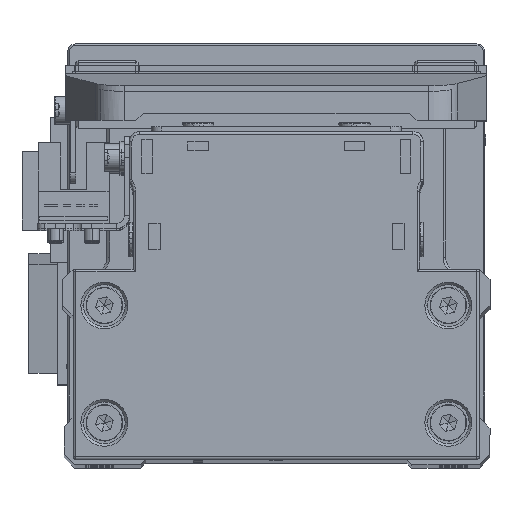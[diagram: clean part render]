
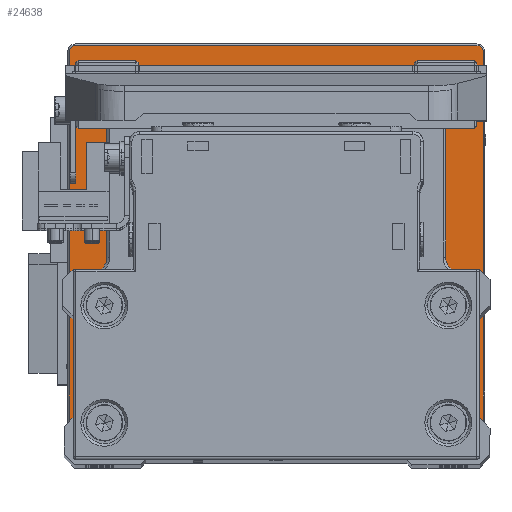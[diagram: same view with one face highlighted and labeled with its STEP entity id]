
A CAD part, top view. The second image highlights one B-rep face of the part: STEP entity #24638.
In plain terms, the highlighted planar face has unit normal (0, 0, 1) as drawn and (0, 1, 0) by its records, which use the part's own axes.
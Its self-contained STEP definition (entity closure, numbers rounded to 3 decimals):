
#351 = DIRECTION ( 'NONE',  ( -1., 0., 0. ) ) ;
#1517 = VECTOR ( 'NONE', #11342, 1000. ) ;
#4155 = CARTESIAN_POINT ( 'NONE',  ( -39.7, 12., 0. ) ) ;
#4467 = ORIENTED_EDGE ( 'NONE', *, *, #28665, .T. ) ;
#5305 = VERTEX_POINT ( 'NONE', #5956 ) ;
#5354 = DIRECTION ( 'NONE',  ( 0., 1., 0. ) ) ;
#5429 = AXIS2_PLACEMENT_3D ( 'NONE', #35245, #8109, #20193 ) ;
#5698 = DIRECTION ( 'NONE',  ( 0., 1., 0. ) ) ;
#5956 = CARTESIAN_POINT ( 'NONE',  ( 0., 12., 20.5 ) ) ;
#7906 = CIRCLE ( 'NONE', #30060, 1.2 ) ;
#7922 = CARTESIAN_POINT ( 'NONE',  ( -39.7, 12., -38.5 ) ) ;
#8109 = DIRECTION ( 'NONE',  ( 0., -1., 0. ) ) ;
#8766 = CARTESIAN_POINT ( 'NONE',  ( 38.5, 12., 38.5 ) ) ;
#9414 = AXIS2_PLACEMENT_3D ( 'NONE', #10375, #22465, #34539 ) ;
#9480 = CARTESIAN_POINT ( 'NONE',  ( -38.5, 12., -39.7 ) ) ;
#10148 = DIRECTION ( 'NONE',  ( 1., 0., 0. ) ) ;
#10375 = CARTESIAN_POINT ( 'NONE',  ( 0., 12., 0. ) ) ;
#10731 = DIRECTION ( 'NONE',  ( 0., 0., 1. ) ) ;
#10804 = DIRECTION ( 'NONE',  ( 0., 1., 0. ) ) ;
#11083 = FACE_BOUND ( 'NONE', #21159, .T. ) ;
#11167 = EDGE_CURVE ( 'NONE', #22157, #11972, #33583, .T. ) ;
#11342 = DIRECTION ( 'NONE',  ( 0., 0., -1. ) ) ;
#11548 = ORIENTED_EDGE ( 'NONE', *, *, #25405, .T. ) ;
#11949 = ORIENTED_EDGE ( 'NONE', *, *, #20304, .T. ) ;
#11972 = VERTEX_POINT ( 'NONE', #17099 ) ;
#12525 = VERTEX_POINT ( 'NONE', #14486 ) ;
#12594 = CARTESIAN_POINT ( 'NONE',  ( -39.7, 12., 38.5 ) ) ;
#14486 = CARTESIAN_POINT ( 'NONE',  ( 38.5, 12., 39.7 ) ) ;
#14847 = VECTOR ( 'NONE', #351, 1000. ) ;
#14948 = VERTEX_POINT ( 'NONE', #25546 ) ;
#15159 = ORIENTED_EDGE ( 'NONE', *, *, #16968, .F. ) ;
#15407 = LINE ( 'NONE', #27487, #14847 ) ;
#15550 = AXIS2_PLACEMENT_3D ( 'NONE', #37917, #10804, #22901 ) ;
#16241 = DIRECTION ( 'NONE',  ( 0., 0., 1. ) ) ;
#16426 = ORIENTED_EDGE ( 'NONE', *, *, #38995, .F. ) ;
#16490 = AXIS2_PLACEMENT_3D ( 'NONE', #32479, #5354, #17446 ) ;
#16912 = AXIS2_PLACEMENT_3D ( 'NONE', #8766, #20845, #32908 ) ;
#16968 = EDGE_CURVE ( 'NONE', #5305, #22175, #26493, .T. ) ;
#17099 = CARTESIAN_POINT ( 'NONE',  ( -38.5, 12., 39.7 ) ) ;
#17446 = DIRECTION ( 'NONE',  ( 0., 0., -1. ) ) ;
#17782 = DIRECTION ( 'NONE',  ( 0., 0., -1. ) ) ;
#17989 = ORIENTED_EDGE ( 'NONE', *, *, #19191, .T. ) ;
#19191 = EDGE_CURVE ( 'NONE', #34265, #22157, #31282, .T. ) ;
#19503 = EDGE_LOOP ( 'NONE', ( #4467, #38079, #11548, #17989, #32261, #21677, #11949, #36632 ) ) ;
#20064 = EDGE_CURVE ( 'NONE', #11972, #12525, #25220, .T. ) ;
#20193 = DIRECTION ( 'NONE',  ( 0., 0., -1. ) ) ;
#20304 = EDGE_CURVE ( 'NONE', #12525, #14948, #33981, .T. ) ;
#20845 = DIRECTION ( 'NONE',  ( 0., 1., 0. ) ) ;
#21159 = EDGE_LOOP ( 'NONE', ( #15159, #16426 ) ) ;
#21652 = AXIS2_PLACEMENT_3D ( 'NONE', #25798, #37844, #10731 ) ;
#21677 = ORIENTED_EDGE ( 'NONE', *, *, #20064, .T. ) ;
#21904 = CARTESIAN_POINT ( 'NONE',  ( 0., 12., -20.5 ) ) ;
#22157 = VERTEX_POINT ( 'NONE', #12594 ) ;
#22175 = VERTEX_POINT ( 'NONE', #21904 ) ;
#22465 = DIRECTION ( 'NONE',  ( 0., 1., 0. ) ) ;
#22504 = VERTEX_POINT ( 'NONE', #32935 ) ;
#22901 = DIRECTION ( 'NONE',  ( 0., 0., -1. ) ) ;
#23176 = PLANE ( 'NONE',  #5429 ) ;
#23544 = EDGE_CURVE ( 'NONE', #22504, #31298, #15407, .T. ) ;
#24638 = ADVANCED_FACE ( 'NONE', ( #38173, #11083 ), #23176, .F. ) ;
#25220 = LINE ( 'NONE', #37263, #28261 ) ;
#25405 = EDGE_CURVE ( 'NONE', #31298, #34265, #7906, .T. ) ;
#25546 = CARTESIAN_POINT ( 'NONE',  ( 39.7, 12., 38.5 ) ) ;
#25798 = CARTESIAN_POINT ( 'NONE',  ( 0., 12., 0. ) ) ;
#26399 = LINE ( 'NONE', #38444, #1517 ) ;
#26493 = CIRCLE ( 'NONE', #9414, 20.5 ) ;
#27487 = CARTESIAN_POINT ( 'NONE',  ( 0., 12., -39.7 ) ) ;
#28261 = VECTOR ( 'NONE', #10148, 1000. ) ;
#28664 = VECTOR ( 'NONE', #16241, 1000. ) ;
#28665 = EDGE_CURVE ( 'NONE', #32198, #22504, #32622, .T. ) ;
#30060 = AXIS2_PLACEMENT_3D ( 'NONE', #32839, #5698, #17782 ) ;
#31282 = LINE ( 'NONE', #4155, #28664 ) ;
#31298 = VERTEX_POINT ( 'NONE', #9480 ) ;
#32198 = VERTEX_POINT ( 'NONE', #36651 ) ;
#32261 = ORIENTED_EDGE ( 'NONE', *, *, #11167, .T. ) ;
#32479 = CARTESIAN_POINT ( 'NONE',  ( -38.5, 12., 38.5 ) ) ;
#32622 = CIRCLE ( 'NONE', #15550, 1.2 ) ;
#32839 = CARTESIAN_POINT ( 'NONE',  ( -38.5, 12., -38.5 ) ) ;
#32908 = DIRECTION ( 'NONE',  ( 0., 0., -1. ) ) ;
#32935 = CARTESIAN_POINT ( 'NONE',  ( 38.5, 12., -39.7 ) ) ;
#33583 = CIRCLE ( 'NONE', #16490, 1.2 ) ;
#33893 = EDGE_CURVE ( 'NONE', #14948, #32198, #26399, .T. ) ;
#33981 = CIRCLE ( 'NONE', #16912, 1.2 ) ;
#34265 = VERTEX_POINT ( 'NONE', #7922 ) ;
#34539 = DIRECTION ( 'NONE',  ( 0., 0., 1. ) ) ;
#35245 = CARTESIAN_POINT ( 'NONE',  ( 0., 12., 0. ) ) ;
#36632 = ORIENTED_EDGE ( 'NONE', *, *, #33893, .T. ) ;
#36651 = CARTESIAN_POINT ( 'NONE',  ( 39.7, 12., -38.5 ) ) ;
#37263 = CARTESIAN_POINT ( 'NONE',  ( 0., 12., 39.7 ) ) ;
#37844 = DIRECTION ( 'NONE',  ( 0., 1., 0. ) ) ;
#37917 = CARTESIAN_POINT ( 'NONE',  ( 38.5, 12., -38.5 ) ) ;
#38079 = ORIENTED_EDGE ( 'NONE', *, *, #23544, .T. ) ;
#38173 = FACE_OUTER_BOUND ( 'NONE', #19503, .T. ) ;
#38444 = CARTESIAN_POINT ( 'NONE',  ( 39.7, 12., 0. ) ) ;
#38687 = CIRCLE ( 'NONE', #21652, 20.5 ) ;
#38995 = EDGE_CURVE ( 'NONE', #22175, #5305, #38687, .T. ) ;
